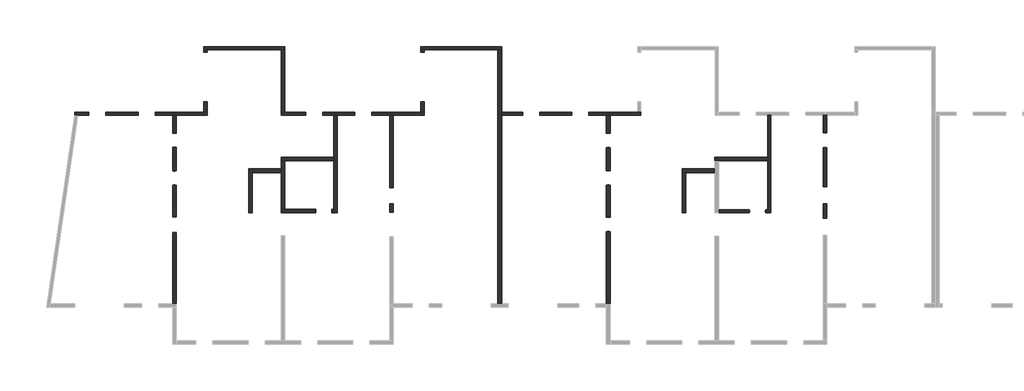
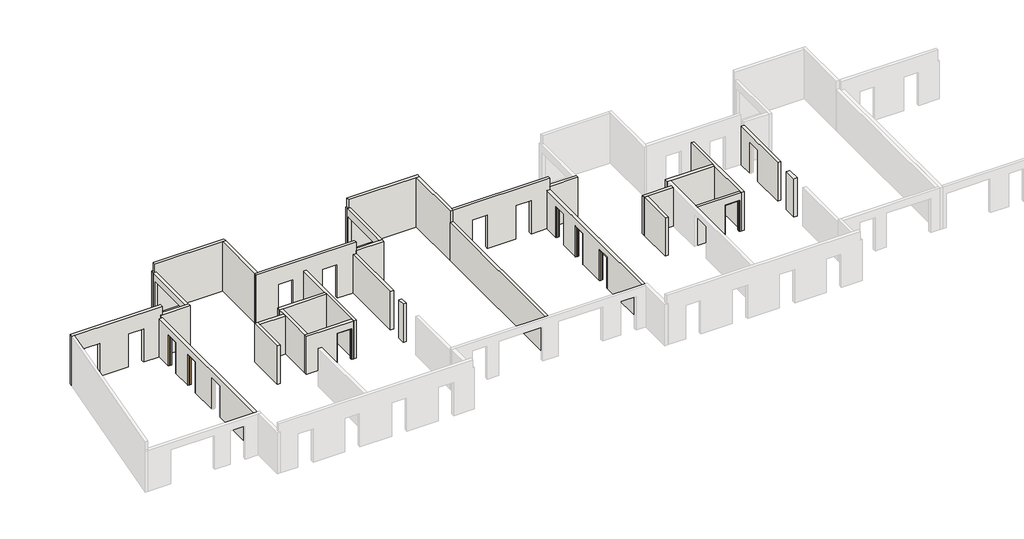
# One storey, part 2 of 3: 30 walls, 7 doors.
"""IFC4 building model written with IfcOpenShell, lengths in millimetres."""

from ifc_helpers import new_model, si_unit, frame, origin, place, context, project, spatial, polyline, outline, extrude, faceted_brep, transform, mapped, element, save
from components import door_48b161e2, door_a0d7bfd5

model = new_model("IFC4")

# Units and contexts
model_context = context("Model", 3, world=origin())
ifc_project = project(units=[si_unit("LENGTHUNIT", "METRE", prefix="MILLI")], contexts=[model_context])

# Site, building, storey
site = spatial("IfcSite", under=ifc_project)
building = spatial("IfcBuilding", under=site)
storey = spatial("IfcBuildingStorey", under=building, Name="Niv +2", Elevation=5400.0)

# Doors
placement = place(None, origin())
door_shape = door_48b161e2(model_context)
element("IfcDoor", 1, ObjectType="FREYS HUISSERIE A BANCHER : FREYS 83*2.035", at=placement, inside=storey, context=model_context, shape_type="MappedRepresentation", body=[
    mapped(door_shape, transform((-24535.4687207, 4881.6493651, 5400.0), x_axis=(0.0, 1.0, 0.0), y_axis=(-1.0, 0.0, 0.0), z_axis=(0.0, 0.0, 1.0))),
])
element("IfcDoor", 2, ObjectType="FREYS HUISSERIE A BANCHER : FREYS 83*2.035", at=placement, inside=storey, context=model_context, shape_type="MappedRepresentation", body=[
    mapped(door_shape, transform((-24535.4687207, 2792.5336653, 5400.0), x_axis=(0.0, 1.0, 0.0), y_axis=(-1.0, 0.0, 0.0), z_axis=(0.0, 0.0, 1.0))),
])
element("IfcDoor", 3, ObjectType="FREYS HUISSERIE A BANCHER : FREYS 83*2.035", at=placement, inside=storey, context=model_context, shape_type="MappedRepresentation", body=[
    mapped(door_shape, transform((-535.4687207, 4861.1247819, 5400.0), x_axis=(0.0, -1.0, 0.0), y_axis=(1.0, 0.0, 0.0), z_axis=(0.0, 0.0, 1.0))),
])
element("IfcDoor", 4, ObjectType="FREYS HUISSERIE A BANCHER : FREYS 83*2.035", at=placement, inside=storey, context=model_context, shape_type="MappedRepresentation", body=[
    mapped(door_shape, transform((-535.4687207, 2788.1542132, 5400.0), x_axis=(0.0, -1.0, 0.0), y_axis=(1.0, 0.0, 0.0), z_axis=(0.0, 0.0, 1.0))),
])
element("IfcDoor", 5, ObjectType="FREYS HUISSERIE A BANCHER : FREYS 83*2.035", at=placement, inside=storey, context=model_context, shape_type="MappedRepresentation", body=[
    mapped(door_shape, transform((-535.4687207, 211.1107168, 5400.0), x_axis=(0.0, -1.0, 0.0), y_axis=(1.0, 0.0, 0.0), z_axis=(0.0, 0.0, 1.0))),
])
door_2_shape = door_a0d7bfd5(model_context)
element("IfcDoor", 6, ObjectType="FREYS HUISSERIE A BANCHER : FREYS 93*2.035", at=placement, inside=storey, context=model_context, shape_type="MappedRepresentation", body=[
    mapped(door_2_shape, transform((-16267.2536997, 956.3702418, 5400.0), x_axis=(1.0, 0.0, 0.0), y_axis=(0.0, 1.0, 0.0), z_axis=(0.0, 0.0, 1.0))),
])
element("IfcDoor", 7, ObjectType="FREYS HUISSERIE A BANCHER : FREYS 93*2.035", at=placement, inside=storey, context=model_context, shape_type="MappedRepresentation", body=[
    mapped(door_2_shape, transform((7719.3181732, 946.3022753, 5400.0), x_axis=(-1.0, 0.0, 0.0), y_axis=(0.0, -1.0, 0.0), z_axis=(0.0, 0.0, 1.0))),
])

# Walls
element("IfcWall", 8, ObjectType="FREYS voile BA C25/30 ep=18 EXT", at=placement, inside=storey, context=model_context, shape_type="Brep", body=[
    faceted_brep([(-24455.8662653, 6246.3702418, 8650.0), (-29881.1275521, 6246.3702418, 8650.0), (-30063.034009, 6246.3702418, 8650.0), (-30063.034009, 6246.3702418, 5400.0), (-29881.1275521, 6246.3702418, 5400.0), (-29265.4415616, 6246.3702418, 5400.0), (-29265.4415616, 6246.3702418, 7580.0), (-28325.4415616, 6246.3702418, 7580.0), (-28325.4415616, 6246.3702418, 5400.0), (-26545.4423564, 6246.3702418, 5400.0), (-26545.4423564, 6246.3702418, 7580.0), (-25605.4423564, 6246.3702418, 7580.0), (-25605.4423564, 6246.3702418, 5400.0), (-24635.4687207, 6246.3702418, 5400.0), (-24545.8662653, 6246.3702418, 5400.0), (-24545.8662653, 6246.3702418, 8100.0), (-24455.8662653, 6246.3702418, 8100.0), (-30036.7669373, 6426.3702418, 8650.0), (-24635.8662653, 6426.3702418, 8650.0), (-24455.8662653, 6426.3702418, 8650.0), (-24455.8662653, 6426.3702418, 8100.0), (-24545.8662653, 6426.3702418, 8100.0), (-24545.8662653, 6426.3702418, 5400.0), (-25605.4423564, 6426.3702418, 5400.0), (-25605.4423564, 6426.3702418, 7580.0), (-26545.4423564, 6426.3702418, 7580.0), (-26545.4423564, 6426.3702418, 5400.0), (-28325.4415616, 6426.3702418, 5400.0), (-28325.4415616, 6426.3702418, 7580.0), (-29265.4415616, 6426.3702418, 7580.0), (-29265.4415616, 6426.3702418, 5400.0), (-30036.7669373, 6426.3702418, 5400.0)], [[[0, 1, 2, 3, 4, 5, 6, 7, 8, 9, 10, 11, 12, 13, 14, 15, 16]], [[17, 18, 19, 20, 21, 22, 23, 24, 25, 26, 27, 28, 29, 30, 31]], [[3, 31, 30, 5, 4]], [[8, 27, 26, 9]], [[22, 14, 13, 12, 23]], [[2, 1, 0, 19, 18, 17]], [[3, 2, 17, 31]], [[29, 6, 5, 30]], [[7, 28, 27, 8]], [[6, 29, 28, 7]], [[11, 24, 23, 12]], [[25, 10, 9, 26]], [[24, 11, 10, 25]], [[14, 22, 21, 15]], [[16, 15, 21, 20]], [[19, 0, 16, 20]]]),
])
element("IfcWall", 9, ObjectType="FREYS voile BA C25/30 ep=18 EXT", at=placement, inside=storey, context=model_context, shape_type="Brep", body=[
    faceted_brep([(-22725.443151, 9876.3428653, 8100.0), (-22725.443151, 6426.3702418, 8100.0), (-22725.443151, 6426.3702418, 5400.0), (-22725.443151, 7006.3428651, 5400.0), (-22725.443151, 7006.3428651, 7630.0), (-22725.443151, 9746.3428651, 7630.0), (-22725.443151, 9746.3428651, 5400.0), (-22725.443151, 9876.3428653, 5400.0), (-22905.443151, 6426.3702418, 8100.0), (-22905.443151, 9876.3428653, 8100.0), (-22905.443151, 9876.3428653, 5400.0), (-22905.443151, 9746.3428651, 5400.0), (-22905.443151, 9746.3428651, 7630.0), (-22905.443151, 7006.3428651, 7630.0), (-22905.443151, 7006.3428651, 5400.0), (-22905.443151, 6426.3702418, 5400.0), (-22815.443151, 9876.3428653, 8100.0)], [[[0, 1, 2, 3, 4, 5, 6, 7]], [[8, 9, 10, 11, 12, 13, 14, 15]], [[2, 15, 14, 3]], [[10, 7, 6, 11]], [[1, 0, 16, 9, 8]], [[2, 1, 8, 15]], [[5, 12, 11, 6]], [[12, 5, 4, 13]], [[13, 4, 3, 14]], [[7, 10, 9, 16, 0]]]),
])
element("IfcWall", 10, ObjectType="FREYS voile BA C25/30 ep=18 EXT", at=placement, inside=storey, context=model_context, shape_type="Brep", body=[
    faceted_brep([(-22905.443151, 9876.3428653, 8100.0), (-22905.443151, 9876.3428653, 7890.0), (-22905.443151, 9876.3428653, 5400.0), (-22725.443151, 9876.3428653, 5400.0), (-18615.4433224, 9876.3428653, 5400.0), (-18435.4433224, 9876.3428653, 5400.0), (-18435.4433224, 9876.3428653, 8650.0), (-18615.4433224, 9876.3428653, 8650.0), (-22815.443151, 9876.3428653, 8650.0), (-22815.443151, 9876.3428653, 8100.0), (-22905.443151, 10056.3428653, 5400.0), (-22905.443151, 10056.3428653, 7890.0), (-22905.443151, 10056.3428653, 8100.0), (-22815.443151, 10056.3428653, 8100.0), (-22815.443151, 10056.3428653, 8650.0), (-18435.4433224, 10056.3428653, 8650.0), (-18435.4433224, 10056.3428653, 5400.0)], [[[0, 1, 2, 3, 4, 5, 6, 7, 8, 9]], [[10, 11, 12, 13, 14, 15, 16]], [[5, 4, 3, 2, 10, 16]], [[8, 7, 6, 15, 14]], [[6, 5, 16, 15]], [[9, 8, 14, 13]], [[9, 13, 12, 0]], [[0, 12, 11, 10, 2, 1]]]),
])
element("IfcWall", 11, ObjectType="FREYS voile BA C25/30 ep=18 EXT", at=placement, inside=storey, context=model_context, shape_type="Brep", body=[
    faceted_brep([(-12455.4687207, 6246.3702418, 8650.0), (-18615.4433224, 6246.3702418, 8650.0), (-18615.4433224, 6246.3702418, 5400.0), (-17275.4417331, 6246.3702418, 5400.0), (-17275.4417331, 6246.3702418, 7580.0), (-16335.4417331, 6246.3702418, 7580.0), (-16335.4417331, 6246.3702418, 5400.0), (-15715.4423564, 6246.3702418, 5400.0), (-15535.4423564, 6246.3702418, 5400.0), (-14555.4425277, 6246.3702418, 5400.0), (-14555.4425277, 6246.3702418, 7580.0), (-13615.4425277, 6246.3702418, 7580.0), (-13615.4425277, 6246.3702418, 5400.0), (-12635.4687207, 6246.3702418, 5400.0), (-12545.4687207, 6246.3702418, 5400.0), (-12545.4687207, 6246.3702418, 7890.0), (-12455.4687207, 6246.3702418, 7890.0), (-12455.4687207, 6246.3702418, 8100.0), (-18615.4433224, 6426.3702418, 8650.0), (-18435.4433224, 6426.3702418, 8650.0), (-12635.4687207, 6426.3702418, 8650.0), (-12455.4687207, 6426.3702418, 8650.0), (-12455.4687207, 6426.3702418, 8100.0), (-12455.4687207, 6426.3702418, 7890.0), (-12545.4687207, 6426.3702418, 7890.0), (-12545.4687207, 6426.3702418, 5400.0), (-13615.4425277, 6426.3702418, 5400.0), (-13615.4425277, 6426.3702418, 7580.0), (-14555.4425277, 6426.3702418, 7580.0), (-14555.4425277, 6426.3702418, 5400.0), (-16335.4417331, 6426.3702418, 5400.0), (-16335.4417331, 6426.3702418, 7580.0), (-17275.4417331, 6426.3702418, 7580.0), (-17275.4417331, 6426.3702418, 5400.0), (-18435.4433224, 6426.3702418, 5400.0), (-18615.4433224, 6426.3702418, 5400.0)], [[[0, 1, 2, 3, 4, 5, 6, 7, 8, 9, 10, 11, 12, 13, 14, 15, 16, 17]], [[18, 19, 20, 21, 22, 23, 24, 25, 26, 27, 28, 29, 30, 31, 32, 33, 34, 35]], [[2, 35, 34, 33, 3]], [[6, 30, 29, 9, 8, 7]], [[25, 14, 13, 12, 26]], [[1, 0, 21, 20, 19, 18]], [[2, 1, 18, 35]], [[5, 31, 30, 6]], [[32, 4, 3, 33]], [[31, 5, 4, 32]], [[11, 27, 26, 12]], [[28, 10, 9, 29]], [[27, 11, 10, 28]], [[14, 25, 24, 15]], [[16, 15, 24, 23]], [[16, 23, 22, 21, 0, 17]]]),
])
element("IfcWall", 12, ObjectType="FREYS voile BA C25/30 ep=18 EXT", at=placement, inside=storey, context=model_context, shape_type="SweptSolid", body=[
    extrude(outline(polyline([(-18615.4433224, 6426.3702418), (-18615.4433224, 9876.3428653), (-18435.4433224, 9876.3428653), (-18435.4433224, 6426.3702418), (-18615.4433224, 6426.3702418)])), frame((0.0, 0.0, 5400.0), z_axis=(0.0, 0.0, 1.0), x_axis=(1.0, 0.0, 0.0)), (0.0, 0.0, 1.0), 3250.0),
])
element("IfcWall", 13, ObjectType="FREYS voile BA C25/30 ep=20 INT", at=placement, inside=storey, context=model_context, shape_type="Brep", body=[
    faceted_brep([(-24635.4687207, 2369.3450086, 5400.0), (-24635.4687207, 614.3247856, 5400.0), (-24635.4687207, 614.3247856, 7435.0), (-24635.4687207, -215.6752144, 7435.0), (-24635.4687207, -215.6752144, 5400.0), (-24635.4687207, -4173.6571231, 5400.0), (-24635.4687207, -4173.6571231, 7900.0), (-24635.4687207, 6246.3702418, 7900.0), (-24635.4687207, 6246.3702418, 5400.0), (-24635.4687207, 5288.4607084, 5400.0), (-24635.4687207, 5288.4607084, 7435.0), (-24635.4687207, 4458.4607084, 7435.0), (-24635.4687207, 4458.4607084, 5400.0), (-24635.4687207, 3199.3450086, 5400.0), (-24635.4687207, 3199.3450086, 7435.0), (-24635.4687207, 2369.3450086, 7435.0), (-24435.4687207, 614.3247856, 7435.0), (-24435.4687207, 614.3247856, 5400.0), (-24435.4687207, 2369.3450086, 5400.0), (-24435.4687207, 2369.3450086, 7435.0), (-24435.4687207, 3199.3450086, 7435.0), (-24435.4687207, 3199.3450086, 5400.0), (-24435.4687207, 4458.4607084, 5400.0), (-24435.4687207, 4458.4607084, 7435.0), (-24435.4687207, 5288.4607084, 7435.0), (-24435.4687207, 5288.4607084, 5400.0), (-24435.4687207, 6246.3702418, 5400.0), (-24435.4687207, 6246.3702418, 7900.0), (-24435.4687207, -4173.6571231, 7900.0), (-24435.4687207, -4173.6571231, 5400.0), (-24435.4687207, -215.6752144, 5400.0), (-24435.4687207, -215.6752144, 7435.0), (-24545.8662653, 6246.3702418, 5400.0)], [[[0, 1, 2, 3, 4, 5, 6, 7, 8, 9, 10, 11, 12, 13, 14, 15]], [[16, 17, 18, 19, 20, 21, 22, 23, 24, 25, 26, 27, 28, 29, 30, 31]], [[26, 25, 9, 8, 32]], [[22, 21, 13, 12]], [[30, 29, 5, 4]], [[18, 17, 1, 0]], [[7, 6, 28, 27]], [[12, 11, 23, 22]], [[10, 9, 25, 24]], [[11, 10, 24, 23]], [[0, 15, 19, 18]], [[14, 13, 21, 20]], [[15, 14, 20, 19]], [[4, 3, 31, 30]], [[2, 1, 17, 16]], [[3, 2, 16, 31]], [[6, 5, 29, 28]], [[7, 27, 26, 32, 8]]]),
])
element("IfcWall", 14, ObjectType="FREYS voile BA C25/30 ep=18 INT", at=placement, inside=storey, context=model_context, shape_type="Brep", body=[
    faceted_brep([(8282.6226054, 6246.3428699, 5400.0), (8282.6226054, 3936.3174518, 5400.0), (8282.6226054, 3736.3174518, 5400.0), (8282.6226054, 1036.3022753, 5400.0), (8282.6226054, 856.3022753, 5400.0), (8282.6226054, 856.3022753, 7900.0), (8282.6226054, 1036.3022753, 7900.0), (8282.6226054, 3736.3174518, 7900.0), (8282.6226054, 3936.3174518, 7900.0), (8282.6226054, 6246.3428699, 7900.0), (8462.6226054, 6246.3428699, 5400.0), (8462.6226054, 6246.3428699, 7900.0), (8462.6226054, 856.3022753, 7900.0), (8462.6226054, 856.3022753, 5400.0)], [[[0, 1, 2, 3, 4, 5, 6, 7, 8, 9]], [[10, 11, 12, 13]], [[4, 3, 2, 1, 0, 10, 13]], [[9, 8, 7, 6, 5, 12, 11]], [[0, 9, 11, 10]], [[5, 4, 13, 12]]]),
])
element("IfcWall", 15, ObjectType="FREYS voile BA C25/30 ep=18 INT", at=placement, inside=storey, context=model_context, shape_type="Brep", body=[
    faceted_brep([(7262.5068299, 1036.3022753, 7435.0), (7262.5068299, 1036.3022753, 5400.0), (5564.5312777, 1036.3022753, 5400.0), (5564.5312777, 1036.3022753, 7900.0), (8282.6226054, 1036.3022753, 7900.0), (8282.6226054, 1036.3022753, 5400.0), (8192.5068299, 1036.3022753, 5400.0), (8192.5068299, 1036.3022753, 7435.0), (5564.5312777, 856.3022753, 5400.0), (7262.5068299, 856.3022753, 5400.0), (7262.5068299, 856.3022753, 7435.0), (8192.5068299, 856.3022753, 7435.0), (8192.5068299, 856.3022753, 5400.0), (8282.6226054, 856.3022753, 5400.0), (8282.6226054, 856.3022753, 7900.0), (5564.5312777, 856.3022753, 7900.0), (5564.5312777, 856.3022753, 7490.0)], [[[0, 1, 2, 3, 4, 5, 6, 7]], [[8, 9, 10, 11, 12, 13, 14, 15, 16]], [[6, 5, 13, 12]], [[2, 1, 9, 8]], [[4, 3, 15, 14]], [[5, 4, 14, 13]], [[3, 2, 8, 16, 15]], [[12, 11, 7, 6]], [[10, 9, 1, 0]], [[11, 10, 0, 7]]]),
])
element("IfcWall", 16, ObjectType="FREYS voile BA C25/30 ep=18 EXT", at=placement, inside=storey, context=model_context, shape_type="Brep", body=[
    faceted_brep([(-455.8662653, 6246.3428699, 8650.0), (-6435.4433224, 6246.3428699, 8650.0), (-6435.4433224, 6246.3428699, 5400.0), (-5275.4415616, 6246.3428699, 5400.0), (-5275.4415616, 6246.3428699, 7580.0), (-4335.4415616, 6246.3428699, 7580.0), (-4335.4415616, 6246.3428699, 5400.0), (-2555.4423563, 6246.3428699, 5400.0), (-2555.4423563, 6246.3428699, 7580.0), (-1615.4423563, 6246.3428699, 7580.0), (-1615.4423563, 6246.3428699, 5400.0), (-635.4687207, 6246.3428699, 5400.0), (-545.8662653, 6246.3428699, 5400.0), (-545.8662653, 6246.3428699, 7890.0), (-455.8662653, 6246.3428699, 7890.0), (-455.8662653, 6246.3428699, 8100.0), (-6435.4433224, 6426.3428699, 8650.0), (-635.8662653, 6426.3428699, 8650.0), (-455.8662653, 6426.3428699, 8650.0), (-455.8662653, 6426.3428699, 8100.0), (-455.8662653, 6426.3428699, 7890.0), (-545.8662653, 6426.3428699, 7890.0), (-545.8662653, 6426.3428699, 5400.0), (-1615.4423563, 6426.3428699, 5400.0), (-1615.4423563, 6426.3428699, 7580.0), (-2555.4423563, 6426.3428699, 7580.0), (-2555.4423563, 6426.3428699, 5400.0), (-4335.4415616, 6426.3428699, 5400.0), (-4335.4415616, 6426.3428699, 7580.0), (-5275.4415616, 6426.3428699, 7580.0), (-5275.4415616, 6426.3428699, 5400.0), (-6435.4433224, 6426.3428699, 5400.0)], [[[0, 1, 2, 3, 4, 5, 6, 7, 8, 9, 10, 11, 12, 13, 14, 15]], [[16, 17, 18, 19, 20, 21, 22, 23, 24, 25, 26, 27, 28, 29, 30, 31]], [[3, 2, 31, 30]], [[6, 27, 26, 7]], [[22, 12, 11, 10, 23]], [[1, 0, 18, 17, 16]], [[29, 4, 3, 30]], [[5, 28, 27, 6]], [[4, 29, 28, 5]], [[25, 8, 7, 26]], [[9, 24, 23, 10]], [[8, 25, 24, 9]], [[2, 1, 16, 31]], [[12, 22, 21, 13]], [[14, 13, 21, 20]], [[14, 20, 19, 18, 0, 15]]]),
])
element("IfcWall", 17, ObjectType="FREYS voile BA C25/30 ep=18 EXT", at=placement, inside=storey, context=model_context, shape_type="Brep", body=[
    faceted_brep([(-6435.4433224, 10056.3428653, 5400.0), (-10905.0456065, 10056.3428653, 5400.0), (-10905.0456065, 10056.3428653, 7890.0), (-10905.0456065, 10056.3428653, 8100.0), (-10815.0456065, 10056.3428653, 8100.0), (-10815.0456065, 10056.3428653, 8650.0), (-6435.4433224, 10056.3428653, 8650.0), (-6435.4433224, 9876.3428653, 5400.0), (-6435.4433224, 9876.3428653, 8650.0), (-6635.4433224, 9876.3428653, 8650.0), (-10815.0456065, 9876.3428653, 8650.0), (-10815.0456065, 9876.3428653, 8100.0), (-10905.0456065, 9876.3428653, 8100.0), (-10905.0456065, 9876.3428653, 7890.0), (-10905.0456065, 9876.3428653, 5400.0), (-10725.0456065, 9876.3428653, 5400.0), (-6635.4433224, 9876.3428653, 5400.0)], [[[0, 1, 2, 3, 4, 5, 6]], [[7, 8, 9, 10, 11, 12, 13, 14, 15, 16]], [[1, 0, 7, 16, 15, 14]], [[6, 5, 10, 9, 8]], [[0, 6, 8, 7]], [[5, 4, 11, 10]], [[11, 4, 3, 12]], [[1, 14, 13, 12, 3, 2]]]),
])
element("IfcWall", 18, ObjectType="FREYS voile BA C25/30 ep=18 EXT", at=placement, inside=storey, context=model_context, shape_type="Brep", body=[
    faceted_brep([(-10905.0456065, 6426.3702418, 8100.0), (-10905.0456065, 9876.3428653, 8100.0), (-10905.0456065, 9876.3428653, 5400.0), (-10905.0456065, 9746.3428648, 5400.0), (-10905.0456065, 9746.3428648, 7630.0), (-10905.0456065, 7006.3428648, 7630.0), (-10905.0456065, 7006.3428648, 5400.0), (-10905.0456065, 6426.3702418, 5400.0), (-10725.0456065, 9876.3428653, 8100.0), (-10725.0456065, 6426.3702418, 8100.0), (-10725.0456065, 6426.3702418, 5400.0), (-10725.0456065, 7006.3428648, 5400.0), (-10725.0456065, 7006.3428648, 7630.0), (-10725.0456065, 9746.3428648, 7630.0), (-10725.0456065, 9746.3428648, 5400.0), (-10725.0456065, 9876.3428653, 5400.0), (-10815.0456065, 9876.3428653, 8100.0)], [[[0, 1, 2, 3, 4, 5, 6, 7]], [[8, 9, 10, 11, 12, 13, 14, 15]], [[2, 15, 14, 3]], [[10, 7, 6, 11]], [[1, 0, 9, 8, 16]], [[0, 7, 10, 9]], [[13, 4, 3, 14]], [[4, 13, 12, 5]], [[5, 12, 11, 6]], [[1, 16, 8, 15, 2]]]),
])
element("IfcWall", 19, ObjectType="FREYS voile BA C25/30 ep=18 INT", at=placement, inside=storey, context=model_context, shape_type="Brep", body=[
    faceted_brep([(-15715.4423564, 6246.3702418, 5400.0), (-15715.4423564, 3926.3428169, 5400.0), (-15715.4423564, 3746.3428169, 5400.0), (-15715.4423564, 1046.3702418, 5400.0), (-15715.4423564, 866.3702418, 5400.0), (-15715.4423564, 866.3702418, 7900.0), (-15715.4423564, 1046.3702418, 7900.0), (-15715.4423564, 3746.3428169, 7900.0), (-15715.4423564, 3926.3428169, 7900.0), (-15715.4423564, 6246.3702418, 7900.0), (-15535.4423564, 6246.3702418, 5400.0), (-15535.4423564, 6246.3702418, 7900.0), (-15535.4423564, 866.3702418, 7900.0), (-15535.4423564, 866.3702418, 5400.0)], [[[0, 1, 2, 3, 4, 5, 6, 7, 8, 9]], [[10, 11, 12, 13]], [[4, 3, 2, 1, 0, 10, 13]], [[9, 8, 7, 6, 5, 12, 11]], [[0, 9, 11, 10]], [[5, 4, 13, 12]]]),
])
element("IfcWall", 20, ObjectType="FREYS voile BA C25/30 ep=18 INT", at=placement, inside=storey, context=model_context, shape_type="Brep", body=[
    faceted_brep([(-15715.4423564, 1046.3702418, 5400.0), (-15810.4423564, 1046.3702418, 5400.0), (-15810.4423564, 1046.3702418, 7435.0), (-16740.4423564, 1046.3702418, 7435.0), (-16740.4423564, 1046.3702418, 5400.0), (-18435.4741279, 1046.3702418, 5400.0), (-18635.4741279, 1046.3702418, 5400.0), (-18635.4741279, 1046.3702418, 7900.0), (-18435.4741279, 1046.3702418, 7900.0), (-15715.4423564, 1046.3702418, 7900.0), (-15810.4423564, 866.3702418, 7435.0), (-15810.4423564, 866.3702418, 5400.0), (-15715.4423564, 866.3702418, 5400.0), (-15715.4423564, 866.3702418, 7900.0), (-18635.4741279, 866.3702418, 7900.0), (-18635.4741279, 866.3702418, 5400.0), (-16740.4423564, 866.3702418, 5400.0), (-16740.4423564, 866.3702418, 7435.0)], [[[0, 1, 2, 3, 4, 5, 6, 7, 8, 9]], [[10, 11, 12, 13, 14, 15, 16, 17]], [[16, 15, 6, 5, 4]], [[12, 11, 1, 0]], [[9, 8, 7, 14, 13]], [[0, 9, 13, 12]], [[7, 6, 15, 14]], [[4, 3, 17, 16]], [[2, 1, 11, 10]], [[3, 2, 10, 17]]]),
])
element("IfcWall", 21, ObjectType="FREYS voile BA C25/30 ep=18 INT", at=placement, inside=storey, context=model_context, shape_type="Brep", body=[
    faceted_brep([(-15715.4423564, 3926.3428169, 5400.0), (-18635.4741279, 3926.3428169, 5400.0), (-18635.4741279, 3926.3428169, 7900.0), (-15715.4423564, 3926.3428169, 7900.0), (-15715.4423564, 3746.3428169, 5400.0), (-15715.4423564, 3746.3428169, 7900.0), (-18435.4741279, 3746.3428169, 7900.0), (-18635.4741279, 3746.3428169, 7900.0), (-18635.4741279, 3746.3428169, 5400.0), (-18435.4741279, 3746.3428169, 5400.0)], [[[0, 1, 2, 3]], [[4, 5, 6, 7, 8, 9]], [[1, 0, 4, 9, 8]], [[3, 2, 7, 6, 5]], [[0, 3, 5, 4]], [[2, 1, 8, 7]]]),
])
element("IfcWall", 22, ObjectType="FREYS voile BA C25/30 ep=20 INT", at=placement, inside=storey, context=model_context, shape_type="Brep", body=[
    faceted_brep([(-20235.4433224, 866.3702418, 5400.0), (-20235.4433224, 3086.3428699, 5400.0), (-20235.4433224, 3286.3428699, 5400.0), (-20235.4433224, 3286.3428699, 7900.0), (-20235.4433224, 3086.3428699, 7900.0), (-20235.4433224, 866.3702418, 7900.0), (-20435.4433224, 866.3702418, 5400.0), (-20435.4433224, 866.3702418, 7900.0), (-20435.4433224, 3286.3428699, 7900.0), (-20435.4433224, 3286.3428699, 5400.0)], [[[0, 1, 2, 3, 4, 5]], [[6, 7, 8, 9]], [[2, 1, 0, 6, 9]], [[5, 4, 3, 8, 7]], [[0, 5, 7, 6]], [[3, 2, 9, 8]]]),
])
element("IfcWall", 23, ObjectType="FREYS voile BA C25/30 ep=20 INT", at=placement, inside=storey, context=model_context, shape_type="SweptSolid", body=[
    extrude(outline(polyline([(-18635.4741279, 3086.3428699), (-20235.4433224, 3086.3428699), (-20235.4433224, 3286.3428699), (-18635.4741279, 3286.3428699), (-18635.4741279, 3086.3428699)])), frame((0.0, 0.0, 5400.0), z_axis=(0.0, 0.0, 1.0), x_axis=(1.0, 0.0, 0.0)), (0.0, 0.0, 1.0), 2500.0),
])
element("IfcWall", 24, ObjectType="FREYS voile BA C25/30 ep=20 INT", at=placement, inside=storey, context=model_context, shape_type="Brep", body=[
    faceted_brep([(-18635.4741279, 3746.3428169, 5400.0), (-18635.4741279, 3286.3428699, 5400.0), (-18635.4741279, 3086.3428699, 5400.0), (-18635.4741279, 1046.3702418, 5400.0), (-18635.4741279, 1046.3702418, 7900.0), (-18635.4741279, 3086.3428699, 7900.0), (-18635.4741279, 3286.3428699, 7900.0), (-18635.4741279, 3746.3428169, 7900.0), (-18435.4741279, 3746.3428169, 5400.0), (-18435.4741279, 3746.3428169, 7900.0), (-18435.4741279, 1046.3702418, 7900.0), (-18435.4741279, 1046.3702418, 5400.0)], [[[0, 1, 2, 3, 4, 5, 6, 7]], [[8, 9, 10, 11]], [[3, 2, 1, 0, 8, 11]], [[7, 6, 5, 4, 10, 9]], [[4, 3, 11, 10]], [[0, 7, 9, 8]]]),
])
element("IfcWall", 25, ObjectType="FREYS voile BA C25/30 ep=20 INT", at=placement, inside=storey, context=model_context, shape_type="Brep", body=[
    faceted_brep([(-12635.4687207, 6246.3702418, 5400.0), (-12635.4687207, 2246.3702418, 5400.0), (-12635.4687207, 2246.3702418, 7900.0), (-12635.4687207, 6246.3702418, 7900.0), (-12435.4687207, 6246.3702418, 5400.0), (-12435.4687207, 6246.3702418, 7900.0), (-12435.4687207, 2246.3702418, 7900.0), (-12435.4687207, 2246.3702418, 5400.0), (-12545.4687207, 6246.3702418, 5400.0)], [[[0, 1, 2, 3]], [[4, 5, 6, 7]], [[1, 0, 8, 4, 7]], [[2, 1, 7, 6]], [[3, 2, 6, 5]], [[0, 3, 5, 4, 8]]]),
])
element("IfcWall", 26, ObjectType="FREYS voile BA C25/30 ep=20 INT", at=placement, inside=storey, context=model_context, shape_type="SweptSolid", body=[
    extrude(outline(polyline([(-12635.4687207, 896.342868), (-12635.4687207, 1356.342868), (-12435.4687207, 1356.342868), (-12435.4687207, 896.342868), (-12635.4687207, 896.342868)])), frame((0.0, 0.0, 5400.0), z_axis=(0.0, 0.0, 1.0), x_axis=(1.0, 0.0, 0.0)), (0.0, 0.0, 1.0), 2500.0),
])
element("IfcWall", 27, ObjectType="FREYS voile BA C25/30 ep=20 INT", at=placement, inside=storey, context=model_context, shape_type="Brep", body=[
    faceted_brep([(-635.4687207, -195.7006265, 7435.0), (-635.4687207, -195.7006265, 5400.0), (-635.4687207, -4173.6823111, 5400.0), (-635.4687207, -4173.6823111, 7900.0), (-635.4687207, 6246.3428699, 7900.0), (-635.4687207, 6246.3428699, 5400.0), (-635.4687207, 5284.3134386, 5400.0), (-635.4687207, 5284.3134386, 7435.0), (-635.4687207, 4454.3134386, 7435.0), (-635.4687207, 4454.3134386, 5400.0), (-635.4687207, 3211.3428699, 5400.0), (-635.4687207, 3211.3428699, 7435.0), (-635.4687207, 2381.3428699, 7435.0), (-635.4687207, 2381.3428699, 5400.0), (-635.4687207, 634.2993735, 5400.0), (-635.4687207, 634.2993735, 7435.0), (-435.4687207, -4173.6823111, 5400.0), (-435.4687207, -195.7006265, 5400.0), (-435.4687207, -195.7006265, 7435.0), (-435.4687207, 634.2993735, 7435.0), (-435.4687207, 634.2993735, 5400.0), (-435.4687207, 2381.3428699, 5400.0), (-435.4687207, 2381.3428699, 7435.0), (-435.4687207, 3211.3428699, 7435.0), (-435.4687207, 3211.3428699, 5400.0), (-435.4687207, 4454.3134386, 5400.0), (-435.4687207, 4454.3134386, 7435.0), (-435.4687207, 5284.3134386, 7435.0), (-435.4687207, 5284.3134386, 5400.0), (-435.4687207, 6246.3428699, 5400.0), (-435.4687207, 6246.3428699, 7900.0), (-435.4687207, -4173.6823111, 7900.0), (-545.8662653, 6246.3428699, 5400.0)], [[[0, 1, 2, 3, 4, 5, 6, 7, 8, 9, 10, 11, 12, 13, 14, 15]], [[16, 17, 18, 19, 20, 21, 22, 23, 24, 25, 26, 27, 28, 29, 30, 31]], [[6, 5, 32, 29, 28]], [[10, 9, 25, 24]], [[14, 13, 21, 20]], [[2, 1, 17, 16]], [[4, 3, 31, 30]], [[28, 27, 7, 6]], [[26, 25, 9, 8]], [[27, 26, 8, 7]], [[24, 23, 11, 10]], [[22, 21, 13, 12]], [[23, 22, 12, 11]], [[20, 19, 15, 14]], [[18, 17, 1, 0]], [[19, 18, 0, 15]], [[3, 2, 16, 31]], [[5, 4, 30, 29, 32]]]),
])
element("IfcWall", 28, ObjectType="FREYS voile BA C25/30 ep=20 INT", at=placement, inside=storey, context=model_context, shape_type="Brep", body=[
    faceted_brep([(8282.6226054, 3936.3174518, 5400.0), (5364.5312777, 3936.3174518, 5400.0), (5364.5312777, 3936.3174518, 7900.0), (8282.6226054, 3936.3174518, 7900.0), (8282.6226054, 3736.3174518, 5400.0), (8282.6226054, 3736.3174518, 7900.0), (5564.5312777, 3736.3174518, 7900.0), (5364.5312777, 3736.3174518, 7900.0), (5364.5312777, 3736.3174518, 5400.0), (5564.5312777, 3736.3174518, 5400.0)], [[[0, 1, 2, 3]], [[4, 5, 6, 7, 8, 9]], [[1, 0, 4, 9, 8]], [[3, 2, 7, 6, 5]], [[0, 3, 5, 4]], [[2, 1, 8, 7]]]),
])
element("IfcWall", 29, ObjectType="FREYS voile BA C25/30 ep=20 INT", at=placement, inside=storey, context=model_context, shape_type="Brep", body=[
    faceted_brep([(5364.5312777, 3286.3428538, 5400.0), (3564.5312756, 3286.3428538, 5400.0), (3564.5312756, 3286.3428538, 7900.0), (5364.5312777, 3286.3428538, 7900.0), (5364.5312777, 3086.3428538, 5400.0), (5364.5312777, 3086.3428538, 7900.0), (3764.5312756, 3086.3428538, 7900.0), (3564.5312756, 3086.3428538, 7900.0), (3564.5312756, 3086.3428538, 5400.0), (3764.5312756, 3086.3428538, 5400.0)], [[[0, 1, 2, 3]], [[4, 5, 6, 7, 8, 9]], [[1, 0, 4, 9, 8]], [[3, 2, 7, 6, 5]], [[0, 3, 5, 4]], [[2, 1, 8, 7]]]),
])
element("IfcWall", 30, ObjectType="FREYS voile BA C25/30 ep=20 INT", at=placement, inside=storey, context=model_context, shape_type="SweptSolid", body=[
    extrude(outline(polyline([(3564.5312756, 856.3022753), (3564.5312756, 3086.3428538), (3764.5312756, 3086.3428538), (3764.5312756, 856.3022753), (3564.5312756, 856.3022753)])), frame((0.0, 0.0, 5400.0), z_axis=(0.0, 0.0, 1.0), x_axis=(1.0, 0.0, 0.0)), (0.0, 0.0, 1.0), 2500.0),
])
element("IfcWall", 31, ObjectType="FREYS voile BA C25/30 ep=20 INT", at=placement, inside=storey, context=model_context, shape_type="Brep", body=[
    faceted_brep([(11364.5281637, 4469.4786239, 7435.0), (11364.5281637, 4469.4786239, 5400.0), (11364.5281637, 2306.3428699, 5400.0), (11364.5281637, 2306.3428699, 7900.0), (11364.5281637, 6246.3428699, 7900.0), (11364.5281637, 6246.3428699, 5400.0), (11364.5281637, 5299.4786239, 5400.0), (11364.5281637, 5299.4786239, 7435.0), (11564.5281637, 2306.3428699, 5400.0), (11564.5281637, 4469.4786239, 5400.0), (11564.5281637, 4469.4786239, 7435.0), (11564.5281637, 5299.4786239, 7435.0), (11564.5281637, 5299.4786239, 5400.0), (11564.5281637, 6246.3428699, 5400.0), (11564.5281637, 6246.3428699, 7900.0), (11564.5281637, 2306.3428699, 7900.0), (11454.1337347, 6246.3428699, 5400.0)], [[[0, 1, 2, 3, 4, 5, 6, 7]], [[8, 9, 10, 11, 12, 13, 14, 15]], [[6, 5, 16, 13, 12]], [[2, 1, 9, 8]], [[3, 2, 8, 15]], [[4, 3, 15, 14]], [[12, 11, 7, 6]], [[10, 9, 1, 0]], [[11, 10, 0, 7]], [[5, 4, 14, 13, 16]]]),
])
element("IfcWall", 32, ObjectType="FREYS voile BA C25/30 ep=20 INT", at=placement, inside=storey, context=model_context, shape_type="SweptSolid", body=[
    extrude(outline(polyline([(11364.5281637, 566.342868), (11364.5281637, 1356.342868), (11564.5281637, 1356.342868), (11564.5281637, 566.342868), (11364.5281637, 566.342868)])), frame((0.0, 0.0, 5400.0), z_axis=(0.0, 0.0, 1.0), x_axis=(1.0, 0.0, 0.0)), (0.0, 0.0, 1.0), 2500.0),
])
element("IfcWall", 33, ObjectType="FREYS voile BA C25/30 ep=20 EXT", at=placement, inside=storey, context=model_context, shape_type="Brep", body=[
    faceted_brep([(-6635.4433224, 9876.3428653, 5400.0), (-6635.4433224, 6246.3428699, 5400.0), (-6635.4433224, 6246.3428699, 8650.0), (-6635.4433224, 9876.3428653, 8650.0), (-6435.4433224, 9876.3428653, 5400.0), (-6435.4433224, 9876.3428653, 8650.0), (-6435.4433224, 6426.3428699, 8650.0), (-6435.4433224, 6246.3428699, 8650.0), (-6435.4433224, 6246.3428699, 5400.0), (-6435.4433224, 6426.3428699, 5400.0)], [[[0, 1, 2, 3]], [[4, 5, 6, 7, 8, 9]], [[1, 0, 4, 9, 8]], [[3, 2, 7, 6, 5]], [[0, 3, 5, 4]], [[2, 1, 8, 7]]]),
])
element("IfcWall", 34, ObjectType="FREYS voile BA C25/30 ep=20 INT", at=placement, inside=storey, context=model_context, shape_type="SweptSolid", body=[
    extrude(outline(polyline([(-6635.4433224, -4173.6823111), (-6635.4433224, 6246.3428653), (-6435.4433224, 6246.3428653), (-6435.4433224, -4173.6823111), (-6635.4433224, -4173.6823111)])), frame((0.0, 0.0, 5400.0), z_axis=(0.0, 0.0, 1.0), x_axis=(1.0, 0.0, 0.0)), (0.0, 0.0, 1.0), 2500.0),
])
element("IfcWall", 35, ObjectType="FREYS voile BA C25/30 ep=18 EXT", at=placement, inside=storey, context=model_context, shape_type="Brep", body=[
    faceted_brep([(-24545.8662653, 6246.3702418, 8100.0), (-24545.8662653, 6246.3702418, 5400.0), (-24435.4687207, 6246.3702418, 5400.0), (-22725.443151, 6246.3702418, 5400.0), (-22725.443151, 6246.3702418, 8100.0), (-24455.8662653, 6246.3702418, 8100.0), (-24545.8662653, 6426.3702418, 5400.0), (-24545.8662653, 6426.3702418, 8100.0), (-24455.8662653, 6426.3702418, 8100.0), (-22905.443151, 6426.3702418, 8100.0), (-22725.443151, 6426.3702418, 8100.0), (-22725.443151, 6426.3702418, 5400.0), (-22905.443151, 6426.3702418, 5400.0)], [[[0, 1, 2, 3, 4, 5]], [[6, 7, 8, 9, 10, 11, 12]], [[3, 2, 1, 6, 12, 11]], [[0, 5, 4, 10, 9, 8, 7]], [[4, 3, 11, 10]], [[0, 7, 6, 1]]]),
])
element("IfcWall", 36, ObjectType="FREYS voile BA C25/30 ep=18 EXT", at=placement, inside=storey, context=model_context, shape_type="Brep", body=[
    faceted_brep([(-12545.4687207, 6246.3702418, 5400.0), (-12435.4687207, 6246.3702418, 5400.0), (-10725.0456065, 6246.3702418, 5400.0), (-10725.0456065, 6246.3702418, 8100.0), (-12455.4687207, 6246.3702418, 8100.0), (-12455.4687207, 6246.3702418, 7890.0), (-12545.4687207, 6246.3702418, 7890.0), (-12545.4687207, 6426.3702418, 5400.0), (-12545.4687207, 6426.3702418, 7890.0), (-12455.4687207, 6426.3702418, 7890.0), (-12455.4687207, 6426.3702418, 8100.0), (-10905.0456065, 6426.3702418, 8100.0), (-10725.0456065, 6426.3702418, 8100.0), (-10725.0456065, 6426.3702418, 5400.0), (-10905.0456065, 6426.3702418, 5400.0)], [[[0, 1, 2, 3, 4, 5, 6]], [[7, 8, 9, 10, 11, 12, 13, 14]], [[2, 1, 0, 7, 14, 13]], [[4, 3, 12, 11, 10]], [[3, 2, 13, 12]], [[0, 6, 8, 7]], [[5, 9, 8, 6]], [[4, 10, 9, 5]]]),
])
element("IfcWall", 37, ObjectType="FREYS voile BA C25/30 ep=18 EXT", at=placement, inside=storey, context=model_context, shape_type="Brep", body=[
    faceted_brep([(-545.8662653, 6246.3428699, 5400.0), (-435.4687207, 6246.3428699, 5400.0), (1274.556849, 6246.3428699, 5400.0), (1274.556849, 6246.3428699, 8100.0), (-455.8662653, 6246.3428699, 8100.0), (-455.8662653, 6246.3428699, 7890.0), (-545.8662653, 6246.3428699, 7890.0), (-545.8662653, 6426.3428699, 5400.0), (-545.8662653, 6426.3428699, 7890.0), (-455.8662653, 6426.3428699, 7890.0), (-455.8662653, 6426.3428699, 8100.0), (1094.556849, 6426.3428699, 8100.0), (1274.556849, 6426.3428699, 8100.0), (1274.556849, 6426.3428699, 5400.0), (1094.556849, 6426.3428699, 5400.0)], [[[0, 1, 2, 3, 4, 5, 6]], [[7, 8, 9, 10, 11, 12, 13, 14]], [[2, 1, 0, 7, 14, 13]], [[4, 3, 12, 11, 10]], [[3, 2, 13, 12]], [[0, 6, 8, 7]], [[5, 9, 8, 6]], [[4, 10, 9, 5]]]),
])

save(model, "model.ifc")
